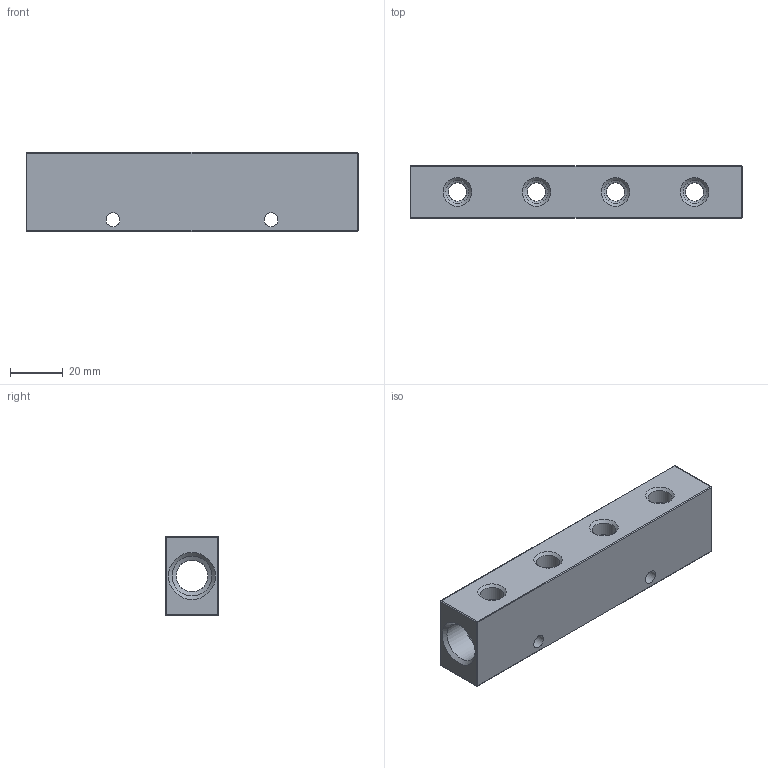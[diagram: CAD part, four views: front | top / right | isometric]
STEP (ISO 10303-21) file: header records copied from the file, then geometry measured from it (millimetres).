
FILE_DESCRIPTION(/* description */ (''),/* implementation_level */ '2;1');
FILE_NAME(/* name */ 'S:\_Tecnico\ArchivioUT\_Disegni3D ingombri\DISEGNI 3D per ingombri\RL\RL52381844.stp',/* time_stamp */ '2020-02-20T14:17:11+01:00',/* author */ ('UfficioTecnico'),/* organization */ (''),/* preprocessor_version */ 'ST-DEVELOPER v18',/* originating_system */ 'Autodesk Inventor 2020',/* authorisation */ '');
FILE_SCHEMA (('AUTOMOTIVE_DESIGN { 1 0 10303 214 3 1 1 }'));
Length unit declared in the file: millimetre
Products named in the file (1): RL51381804
Bounding box: 126 x 20 x 30 mm (x, y, z)
Volume: 54614.8 mm3; surface area: 20075.1 mm2
Topology: 1 solids, 1 shells, 67 faces, 169 edges, 104 vertices
Faces by surface type: cylinder 33, cone 20, sphere 8, plane 6
Full cylindrical faces by diameter (mm): 5.25 x2, 7 x8, 8.848 x8, 12 x1, 15.172 x2
Entity records: 2348 total; most frequent: CARTESIAN_POINT 613, DIRECTION 377, ORIENTED_EDGE 338, EDGE_CURVE 169, AXIS2_PLACEMENT_3D 156, VERTEX_POINT 104, EDGE_LOOP 89, CIRCLE 88
